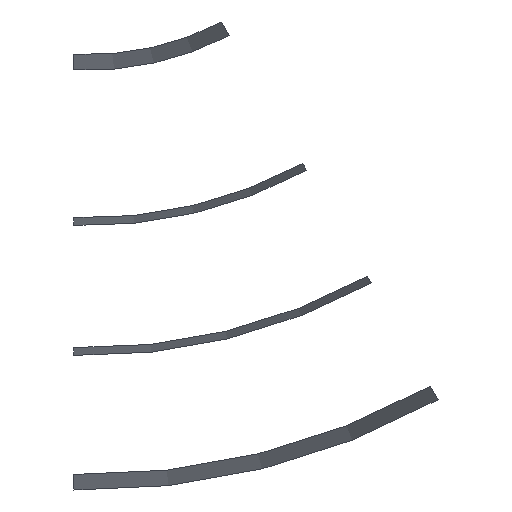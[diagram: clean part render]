
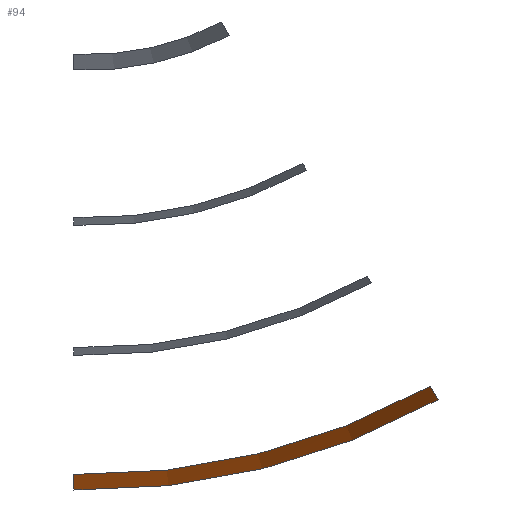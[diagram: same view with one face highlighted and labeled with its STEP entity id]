
A CAD part, top view. The second image highlights one B-rep face of the part: STEP entity #94.
In plain terms, the highlighted conical face has half-angle 15 degrees and reference radius 50 mm.
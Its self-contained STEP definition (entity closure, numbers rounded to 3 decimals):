
#53=CARTESIAN_POINT('Axis2P3D Location',(0.,0.,279.904)) ;
#59=CARTESIAN_POINT('Control Point',(-2.5,-122.295,10.)) ;
#60=CARTESIAN_POINT('Control Point',(-2.5,-123.188,6.667)) ;
#61=CARTESIAN_POINT('Control Point',(-2.5,-124.082,3.333)) ;
#62=CARTESIAN_POINT('Control Point',(-2.5,-124.975,0.)) ;
#63=CARTESIAN_POINT('Vertex',(-2.5,-122.295,10.)) ;
#65=CARTESIAN_POINT('Vertex',(-2.5,-124.975,0.)) ;
#68=CARTESIAN_POINT('Axis2P3D Location',(0.,0.,10.)) ;
#72=CARTESIAN_POINT('Vertex',(59.276,-106.999,10.)) ;
#76=CARTESIAN_POINT('Control Point',(59.276,-106.999,10.)) ;
#77=CARTESIAN_POINT('Control Point',(59.722,-107.772,6.667)) ;
#78=CARTESIAN_POINT('Control Point',(60.169,-108.546,3.333)) ;
#79=CARTESIAN_POINT('Control Point',(60.616,-109.319,0.)) ;
#80=CARTESIAN_POINT('Vertex',(60.616,-109.319,0.)) ;
#83=CARTESIAN_POINT('Axis2P3D Location',(0.,0.,0.)) ;
#54=DIRECTION('Axis2P3D Direction',(-0.,-0.,-1.)) ;
#55=DIRECTION('Axis2P3D XDirection',(0.878,-0.479,0.)) ;
#69=DIRECTION('Axis2P3D Direction',(0.,-0.,-1.)) ;
#84=DIRECTION('Axis2P3D Direction',(0.,-0.,-1.)) ;
#56=AXIS2_PLACEMENT_3D('Cone Axis2P3D',#53,#54,#55) ;
#70=AXIS2_PLACEMENT_3D('Circle Axis2P3D',#68,#69,$) ;
#85=AXIS2_PLACEMENT_3D('Circle Axis2P3D',#83,#84,$) ;
#89=ORIENTED_EDGE('',*,*,#67,.F.) ;
#90=ORIENTED_EDGE('',*,*,#74,.T.) ;
#91=ORIENTED_EDGE('',*,*,#82,.T.) ;
#92=ORIENTED_EDGE('',*,*,#87,.T.) ;
#94=ADVANCED_FACE('Split.5',(#93),#57,.F.) ;
#58=B_SPLINE_CURVE_WITH_KNOTS('',3,(#59,#60,#61,#62),.UNSPECIFIED.,.F.,.U.,(4,4),(0.,14.641),.UNSPECIFIED.) ;
#75=B_SPLINE_CURVE_WITH_KNOTS('',3,(#76,#77,#78,#79),.UNSPECIFIED.,.F.,.U.,(4,4),(0.,14.641),.UNSPECIFIED.) ;
#71=CIRCLE('generated circle',#70,122.321) ;
#86=CIRCLE('generated circle',#85,125.) ;
#57=CONICAL_SURFACE('Cone',#56,50.,0.262) ;
#67=EDGE_CURVE('',#64,#66,#58,.T.) ;
#74=EDGE_CURVE('',#64,#73,#71,.F.) ;
#82=EDGE_CURVE('',#73,#81,#75,.T.) ;
#87=EDGE_CURVE('',#81,#66,#86,.T.) ;
#88=EDGE_LOOP('',(#89,#90,#91,#92)) ;
#93=FACE_OUTER_BOUND('',#88,.T.) ;
#64=VERTEX_POINT('',#63) ;
#66=VERTEX_POINT('',#65) ;
#73=VERTEX_POINT('',#72) ;
#81=VERTEX_POINT('',#80) ;
